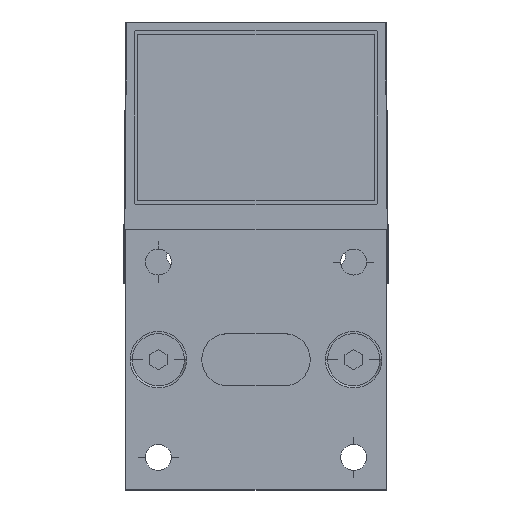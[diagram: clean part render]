
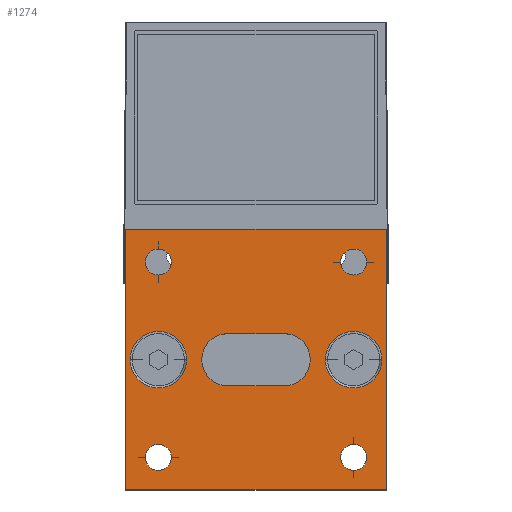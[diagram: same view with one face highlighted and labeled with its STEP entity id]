
A CAD part, top view. The second image highlights one B-rep face of the part: STEP entity #1274.
In plain terms, the highlighted planar face has unit normal (0, 0, 1).
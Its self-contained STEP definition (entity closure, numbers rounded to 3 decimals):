
#794=CARTESIAN_POINT('',(22.5,-47.5,745.2));
#795=DIRECTION('',(0.,0.,1.));
#796=DIRECTION('',(0.,-1.,0.));
#797=AXIS2_PLACEMENT_3D('',#794,#795,#796);
#799=CARTESIAN_POINT('',(22.5,-47.5,745.2));
#800=DIRECTION('',(0.,0.,1.));
#801=DIRECTION('',(0.,1.,0.));
#802=AXIS2_PLACEMENT_3D('',#799,#800,#801);
#804=CARTESIAN_POINT('',(-22.5,-2.5,745.2));
#805=DIRECTION('',(0.,0.,1.));
#806=DIRECTION('',(0.,1.,0.));
#807=AXIS2_PLACEMENT_3D('',#804,#805,#806);
#809=CARTESIAN_POINT('',(-22.5,-2.5,745.2));
#810=DIRECTION('',(0.,0.,1.));
#811=DIRECTION('',(0.,-1.,0.));
#812=AXIS2_PLACEMENT_3D('',#809,#810,#811);
#814=CARTESIAN_POINT('',(-22.5,-47.5,745.2));
#815=DIRECTION('',(0.,0.,1.));
#816=DIRECTION('',(-1.,0.,0.));
#817=AXIS2_PLACEMENT_3D('',#814,#815,#816);
#819=CARTESIAN_POINT('',(-22.5,-47.5,745.2));
#820=DIRECTION('',(0.,0.,1.));
#821=DIRECTION('',(1.,0.,0.));
#822=AXIS2_PLACEMENT_3D('',#819,#820,#821);
#824=CARTESIAN_POINT('',(-22.5,-25.,745.2));
#825=DIRECTION('',(0.,0.,1.));
#826=DIRECTION('',(-1.,0.,0.));
#827=AXIS2_PLACEMENT_3D('',#824,#825,#826);
#829=CARTESIAN_POINT('',(-22.5,-25.,745.2));
#830=DIRECTION('',(0.,0.,1.));
#831=DIRECTION('',(1.,0.,0.));
#832=AXIS2_PLACEMENT_3D('',#829,#830,#831);
#834=CARTESIAN_POINT('',(22.5,-25.,745.2));
#835=DIRECTION('',(0.,0.,1.));
#836=DIRECTION('',(-1.,0.,0.));
#837=AXIS2_PLACEMENT_3D('',#834,#835,#836);
#839=CARTESIAN_POINT('',(22.5,-25.,745.2));
#840=DIRECTION('',(0.,0.,1.));
#841=DIRECTION('',(1.,0.,0.));
#842=AXIS2_PLACEMENT_3D('',#839,#840,#841);
#844=CARTESIAN_POINT('',(-6.5,-25.,745.2));
#845=DIRECTION('',(0.,0.,1.));
#846=DIRECTION('',(0.,1.,0.));
#847=AXIS2_PLACEMENT_3D('',#844,#845,#846);
#849=DIRECTION('',(1.,0.,0.));
#850=VECTOR('',#849,13.);
#851=CARTESIAN_POINT('',(-6.5,-31.,745.2));
#852=LINE('',#851,#850);
#853=CARTESIAN_POINT('',(6.5,-25.,745.2));
#854=DIRECTION('',(0.,0.,1.));
#855=DIRECTION('',(0.,-1.,0.));
#856=AXIS2_PLACEMENT_3D('',#853,#854,#855);
#858=DIRECTION('',(-1.,0.,0.));
#859=VECTOR('',#858,13.);
#860=CARTESIAN_POINT('',(6.5,-19.,745.2));
#861=LINE('',#860,#859);
#862=DIRECTION('',(0.,-1.,0.));
#863=VECTOR('',#862,60.);
#864=CARTESIAN_POINT('',(30.,5.,745.2));
#865=LINE('',#864,#863);
#866=DIRECTION('',(-1.,0.,0.));
#867=VECTOR('',#866,60.);
#868=CARTESIAN_POINT('',(30.,-55.,745.2));
#869=LINE('',#868,#867);
#870=DIRECTION('',(0.,1.,0.));
#871=VECTOR('',#870,60.);
#872=CARTESIAN_POINT('',(-30.,-55.,745.2));
#873=LINE('',#872,#871);
#874=DIRECTION('',(1.,0.,0.));
#875=VECTOR('',#874,60.);
#876=CARTESIAN_POINT('',(-30.,5.,745.2));
#877=LINE('',#876,#875);
#878=CARTESIAN_POINT('',(22.5,-2.5,745.2));
#879=DIRECTION('',(0.,0.,1.));
#880=DIRECTION('',(1.,0.,0.));
#881=AXIS2_PLACEMENT_3D('',#878,#879,#880);
#883=CARTESIAN_POINT('',(22.5,-2.5,745.2));
#884=DIRECTION('',(0.,0.,1.));
#885=DIRECTION('',(-1.,0.,0.));
#886=AXIS2_PLACEMENT_3D('',#883,#884,#885);
#1101=CARTESIAN_POINT('',(30.,5.,745.2));
#1102=CARTESIAN_POINT('',(30.,-55.,745.2));
#1103=VERTEX_POINT('',#1101);
#1104=VERTEX_POINT('',#1102);
#1105=CARTESIAN_POINT('',(-30.,-55.,745.2));
#1106=VERTEX_POINT('',#1105);
#1107=CARTESIAN_POINT('',(-30.,5.,745.2));
#1108=VERTEX_POINT('',#1107);
#1117=CARTESIAN_POINT('',(-6.5,-19.,745.2));
#1118=CARTESIAN_POINT('',(-6.5,-31.,745.2));
#1119=VERTEX_POINT('',#1117);
#1120=VERTEX_POINT('',#1118);
#1121=CARTESIAN_POINT('',(6.5,-31.,745.2));
#1122=VERTEX_POINT('',#1121);
#1123=CARTESIAN_POINT('',(6.5,-19.,745.2));
#1124=VERTEX_POINT('',#1123);
#1141=CARTESIAN_POINT('',(16.,-25.,745.2));
#1142=CARTESIAN_POINT('',(29.,-25.,745.2));
#1143=VERTEX_POINT('',#1141);
#1144=VERTEX_POINT('',#1142);
#1157=CARTESIAN_POINT('',(-16.,-25.,745.2));
#1158=CARTESIAN_POINT('',(-29.,-25.,745.2));
#1159=VERTEX_POINT('',#1157);
#1160=VERTEX_POINT('',#1158);
#1169=CARTESIAN_POINT('',(-19.5,-47.5,745.2));
#1170=CARTESIAN_POINT('',(-25.5,-47.5,745.2));
#1171=VERTEX_POINT('',#1169);
#1172=VERTEX_POINT('',#1170);
#1185=CARTESIAN_POINT('',(-22.5,-5.5,745.2));
#1186=CARTESIAN_POINT('',(-22.5,0.5,745.2));
#1187=VERTEX_POINT('',#1185);
#1188=VERTEX_POINT('',#1186);
#1189=CARTESIAN_POINT('',(19.5,-2.5,745.2));
#1190=CARTESIAN_POINT('',(25.5,-2.5,745.2));
#1191=VERTEX_POINT('',#1189);
#1192=VERTEX_POINT('',#1190);
#1193=CARTESIAN_POINT('',(22.5,-44.5,745.2));
#1194=CARTESIAN_POINT('',(22.5,-50.5,745.2));
#1195=VERTEX_POINT('',#1193);
#1196=VERTEX_POINT('',#1194);
#1213=CARTESIAN_POINT('',(0.,-25.,745.2));
#1214=DIRECTION('',(0.,0.,-1.));
#1215=DIRECTION('',(-1.,0.,0.));
#1216=AXIS2_PLACEMENT_3D('',#1213,#1214,#1215);
#1217=PLANE('',#1216);
#1219=ORIENTED_EDGE('',*,*,#1218,.T.);
#1221=ORIENTED_EDGE('',*,*,#1220,.T.);
#1223=ORIENTED_EDGE('',*,*,#1222,.T.);
#1225=ORIENTED_EDGE('',*,*,#1224,.T.);
#1226=EDGE_LOOP('',(#1219,#1221,#1223,#1225));
#1227=FACE_OUTER_BOUND('',#1226,.F.);
#1229=ORIENTED_EDGE('',*,*,#1228,.T.);
#1231=ORIENTED_EDGE('',*,*,#1230,.T.);
#1232=EDGE_LOOP('',(#1229,#1231));
#1233=FACE_BOUND('',#1232,.F.);
#1235=ORIENTED_EDGE('',*,*,#1234,.T.);
#1237=ORIENTED_EDGE('',*,*,#1236,.T.);
#1238=EDGE_LOOP('',(#1235,#1237));
#1239=FACE_BOUND('',#1238,.F.);
#1241=ORIENTED_EDGE('',*,*,#1240,.T.);
#1243=ORIENTED_EDGE('',*,*,#1242,.T.);
#1244=EDGE_LOOP('',(#1241,#1243));
#1245=FACE_BOUND('',#1244,.F.);
#1247=ORIENTED_EDGE('',*,*,#1246,.T.);
#1249=ORIENTED_EDGE('',*,*,#1248,.T.);
#1250=EDGE_LOOP('',(#1247,#1249));
#1251=FACE_BOUND('',#1250,.F.);
#1253=ORIENTED_EDGE('',*,*,#1252,.T.);
#1255=ORIENTED_EDGE('',*,*,#1254,.T.);
#1257=ORIENTED_EDGE('',*,*,#1256,.T.);
#1259=ORIENTED_EDGE('',*,*,#1258,.T.);
#1260=EDGE_LOOP('',(#1253,#1255,#1257,#1259));
#1261=FACE_BOUND('',#1260,.F.);
#1263=ORIENTED_EDGE('',*,*,#1262,.T.);
#1265=ORIENTED_EDGE('',*,*,#1264,.T.);
#1266=EDGE_LOOP('',(#1263,#1265));
#1267=FACE_BOUND('',#1266,.F.);
#1269=ORIENTED_EDGE('',*,*,#1268,.T.);
#1271=ORIENTED_EDGE('',*,*,#1270,.T.);
#1272=EDGE_LOOP('',(#1269,#1271));
#1273=FACE_BOUND('',#1272,.F.);
#1274=ADVANCED_FACE('',(#1227,#1233,#1239,#1245,#1251,#1261,#1267,#1273),#1217,
.F.);
#798=CIRCLE('',#797,3.);
#803=CIRCLE('',#802,3.);
#808=CIRCLE('',#807,3.);
#813=CIRCLE('',#812,3.);
#818=CIRCLE('',#817,3.);
#823=CIRCLE('',#822,3.);
#828=CIRCLE('',#827,6.5);
#833=CIRCLE('',#832,6.5);
#838=CIRCLE('',#837,6.5);
#843=CIRCLE('',#842,6.5);
#848=CIRCLE('',#847,6.);
#857=CIRCLE('',#856,6.);
#882=CIRCLE('',#881,3.);
#887=CIRCLE('',#886,3.);
#1218=EDGE_CURVE('',#1103,#1104,#865,.T.);
#1220=EDGE_CURVE('',#1104,#1106,#869,.T.);
#1222=EDGE_CURVE('',#1106,#1108,#873,.T.);
#1224=EDGE_CURVE('',#1108,#1103,#877,.T.);
#1228=EDGE_CURVE('',#1188,#1187,#808,.T.);
#1230=EDGE_CURVE('',#1187,#1188,#813,.T.);
#1234=EDGE_CURVE('',#1172,#1171,#818,.T.);
#1236=EDGE_CURVE('',#1171,#1172,#823,.T.);
#1240=EDGE_CURVE('',#1160,#1159,#828,.T.);
#1242=EDGE_CURVE('',#1159,#1160,#833,.T.);
#1246=EDGE_CURVE('',#1143,#1144,#838,.T.);
#1248=EDGE_CURVE('',#1144,#1143,#843,.T.);
#1252=EDGE_CURVE('',#1119,#1120,#848,.T.);
#1254=EDGE_CURVE('',#1120,#1122,#852,.T.);
#1256=EDGE_CURVE('',#1122,#1124,#857,.T.);
#1258=EDGE_CURVE('',#1124,#1119,#861,.T.);
#1262=EDGE_CURVE('',#1196,#1195,#798,.T.);
#1264=EDGE_CURVE('',#1195,#1196,#803,.T.);
#1268=EDGE_CURVE('',#1192,#1191,#882,.T.);
#1270=EDGE_CURVE('',#1191,#1192,#887,.T.);
